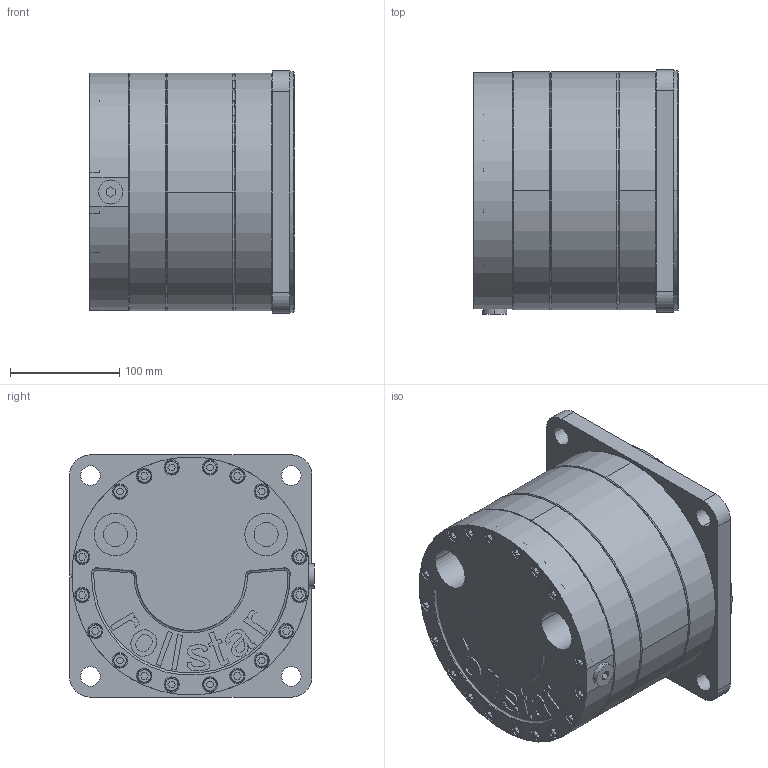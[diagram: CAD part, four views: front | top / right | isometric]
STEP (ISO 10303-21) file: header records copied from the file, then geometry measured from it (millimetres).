
FILE_DESCRIPTION(('Creo Elements/Direct Modeling STEP Export'),'2;1');
FILE_NAME('M50 axial.stp','2017-07-10T14:48:27',(''),(''),'PTC Creo Elements/Direct Modeling STEP processor for AP214 (Solid Model)','PTC Creo Elements/Direct Modeling 19.0C 15-Aug-2015 (C) Parametric Technology GmbH','');
FILE_SCHEMA(('AUTOMOTIVE_DESIGN { 1 0 10303 214 1 1 1 1 }'));
Length unit declared in the file: millimetre
Products named in the file (1): M50_axial
Bounding box: 187 x 224.16 x 222 mm (x, y, z)
Volume: 6917870 mm3; surface area: 290728.2 mm2
Topology: 1 solids, 1 shells, 997 faces, 2463 edges, 1608 vertices
Faces by surface type: plane 585, cylinder 274, cone 84, extrusion 36, torus 18
Entity records: 36619 total; most frequent: CARTESIAN_POINT 5469, ORIENTED_EDGE 4926, DIRECTION 4523, EDGE_CURVE 2463, VECTOR 1759, LINE 1723, VERTEX_POINT 1608, AXIS2_PLACEMENT_3D 1382
